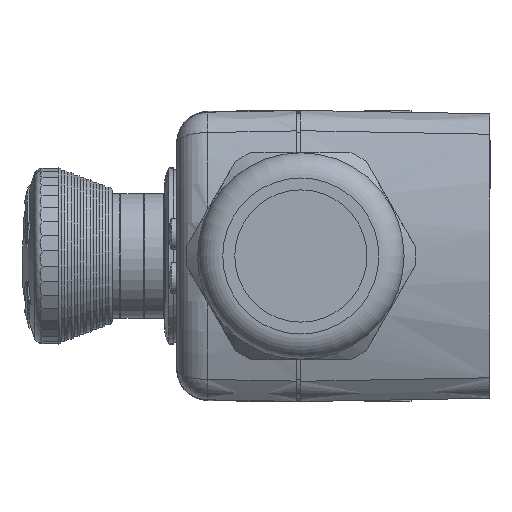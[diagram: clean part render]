
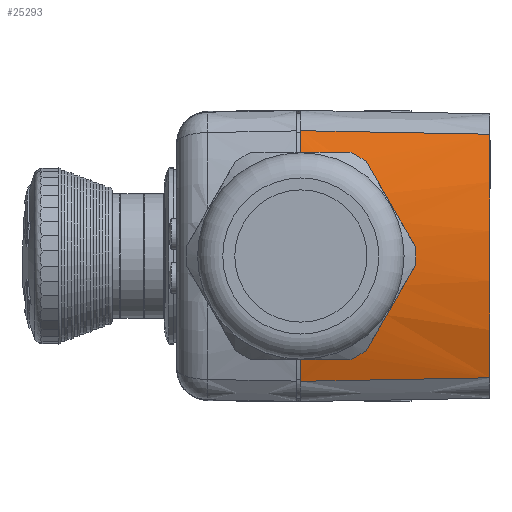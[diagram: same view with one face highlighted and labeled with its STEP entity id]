
A CAD part, left-side view. The second image highlights one B-rep face of the part: STEP entity #25293.
In plain terms, the highlighted conical face has half-angle 1 degrees and reference radius 55.977 mm.
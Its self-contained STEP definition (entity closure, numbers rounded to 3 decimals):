
#5990=CARTESIAN_POINT('',(-218.263,30.0,16.5));
#5991=VERTEX_POINT('',#5990);
#5998=CARTESIAN_POINT('',(-217.092,30.,19.903));
#5999=VERTEX_POINT('',#5998);
#6000=CARTESIAN_POINT('',(-164.773,30.,0.0));
#6001=DIRECTION('',(0.,-1.0,0.));
#6002=DIRECTION('',(0.911,0.,-0.413));
#6003=AXIS2_PLACEMENT_3D('',#6000,#6001,#6002);
#6004=CIRCLE('',#6003,55.977);
#6005=EDGE_CURVE('',#5999,#5991,#6004,.T.);
#11243=CARTESIAN_POINT('',(-217.092,30.,-19.903));
#11244=VERTEX_POINT('',#11243);
#11264=CARTESIAN_POINT('',(-218.263,30.0,-16.5));
#11265=VERTEX_POINT('',#11264);
#11266=CARTESIAN_POINT('',(-164.773,30.,0.0));
#11267=DIRECTION('',(0.,-1.0,0.));
#11268=DIRECTION('',(0.911,0.,-0.413));
#11269=AXIS2_PLACEMENT_3D('',#11266,#11267,#11268);
#11270=CIRCLE('',#11269,55.977);
#11271=EDGE_CURVE('',#11265,#11244,#11270,.T.);
#12275=CARTESIAN_POINT('',(-216.742,0.,-19.346));
#12276=VERTEX_POINT('',#12275);
#12489=CARTESIAN_POINT('',(-216.742,0.,19.346));
#12490=VERTEX_POINT('',#12489);
#12510=CARTESIAN_POINT('',(-164.773,0.0,0.0));
#12511=DIRECTION('',(0.,1.0,0.));
#12512=DIRECTION('',(0.911,0.,-0.413));
#12513=AXIS2_PLACEMENT_3D('',#12510,#12511,#12512);
#12514=CIRCLE('',#12513,55.453);
#12515=EDGE_CURVE('',#12276,#12490,#12514,.T.);
#23428=CARTESIAN_POINT('',(-217.092,30.,19.903));
#23429=CARTESIAN_POINT('',(-216.976,20.,19.718));
#23430=CARTESIAN_POINT('',(-216.859,10.,19.532));
#23431=CARTESIAN_POINT('',(-216.742,0.,19.346));
#23432=B_SPLINE_CURVE_WITH_KNOTS('',3,(#23428,#23429,#23430,#23431),.UNSPECIFIED.,.F.,.U.,(4,4),(-3.501,-0.5),.UNSPECIFIED.);
#23433=EDGE_CURVE('',#5999,#12490,#23432,.T.);
#23631=CARTESIAN_POINT('',(-216.742,0.,-19.346));
#23632=CARTESIAN_POINT('',(-216.859,10.,-19.532));
#23633=CARTESIAN_POINT('',(-216.976,20.,-19.718));
#23634=CARTESIAN_POINT('',(-217.092,30.,-19.903));
#23635=B_SPLINE_CURVE_WITH_KNOTS('',3,(#23631,#23632,#23633,#23634),.UNSPECIFIED.,.F.,.U.,(4,4),(-3.502,-0.501),.UNSPECIFIED.);
#23636=EDGE_CURVE('',#12276,#11244,#23635,.T.);
#25239=CARTESIAN_POINT('',(-164.773,30.,0.0));
#25240=DIRECTION('',(0.0,1.0,0.0));
#25241=DIRECTION('',(0.911,0.,-0.413));
#25242=AXIS2_PLACEMENT_3D('',#25239,#25240,#25241);
#25243=CONICAL_SURFACE('',#25242,55.977,1.0);
#25244=CARTESIAN_POINT('',(-218.263,30.0,16.5));
#25245=CARTESIAN_POINT('',(-218.262,29.972,16.5));
#25246=CARTESIAN_POINT('',(-218.262,29.943,16.5));
#25247=CARTESIAN_POINT('',(-218.261,29.915,16.5));
#25248=CARTESIAN_POINT('',(-218.244,28.878,16.494));
#25249=CARTESIAN_POINT('',(-218.257,27.807,16.39));
#25250=CARTESIAN_POINT('',(-218.348,25.682,15.962));
#25251=CARTESIAN_POINT('',(-218.425,24.626,15.639));
#25252=CARTESIAN_POINT('',(-218.628,22.606,14.791));
#25253=CARTESIAN_POINT('',(-218.754,21.639,14.266));
#25254=CARTESIAN_POINT('',(-219.028,19.853,13.055));
#25255=CARTESIAN_POINT('',(-219.175,19.033,12.371));
#25256=CARTESIAN_POINT('',(-219.46,17.582,10.914));
#25257=CARTESIAN_POINT('',(-219.608,16.9,10.09));
#25258=CARTESIAN_POINT('',(-219.887,15.697,8.296));
#25259=CARTESIAN_POINT('',(-220.017,15.175,7.326));
#25260=CARTESIAN_POINT('',(-220.233,14.336,5.3));
#25261=CARTESIAN_POINT('',(-220.32,14.018,4.242));
#25262=CARTESIAN_POINT('',(-220.434,13.6,2.111));
#25263=CARTESIAN_POINT('',(-220.462,13.5,1.039));
#25264=CARTESIAN_POINT('',(-220.462,13.5,-1.039));
#25265=CARTESIAN_POINT('',(-220.434,13.6,-2.111));
#25266=CARTESIAN_POINT('',(-220.32,14.018,-4.242));
#25267=CARTESIAN_POINT('',(-220.233,14.336,-5.3));
#25268=CARTESIAN_POINT('',(-220.017,15.175,-7.326));
#25269=CARTESIAN_POINT('',(-219.887,15.697,-8.296));
#25270=CARTESIAN_POINT('',(-219.608,16.9,-10.09));
#25271=CARTESIAN_POINT('',(-219.46,17.582,-10.914));
#25272=CARTESIAN_POINT('',(-219.175,19.033,-12.371));
#25273=CARTESIAN_POINT('',(-219.028,19.853,-13.055));
#25274=CARTESIAN_POINT('',(-218.754,21.639,-14.266));
#25275=CARTESIAN_POINT('',(-218.628,22.606,-14.791));
#25276=CARTESIAN_POINT('',(-218.425,24.626,-15.639));
#25277=CARTESIAN_POINT('',(-218.348,25.682,-15.962));
#25278=CARTESIAN_POINT('',(-218.257,27.807,-16.39));
#25279=CARTESIAN_POINT('',(-218.244,28.878,-16.494));
#25280=CARTESIAN_POINT('',(-218.262,29.943,-16.5));
#25281=CARTESIAN_POINT('',(-218.262,29.972,-16.5));
#25282=CARTESIAN_POINT('',(-218.263,30.0,-16.5));
#25283=B_SPLINE_CURVE_WITH_KNOTS('',3,(#25244,#25245,#25246,#25247,#25248,#25249,#25250,#25251,#25252,#25253,#25254,#25255,#25256,#25257,#25258,#25259,#25260,#25261,#25262,#25263,#25264,#25265,#25266,#25267,#25268,#25269,#25270,#25271,#25272,#25273,#25274,#25275,#25276,#25277,#25278,#25279,#25280,#25281,#25282),.UNSPECIFIED.,.F.,.U.,(4,3,2,2,2,2,2,2,2,2,2,2,2,2,2,2,2,2,4),(-0.008,0.0,0.311,0.622,0.934,1.245,1.556,1.868,2.18,2.491,2.803,3.114,3.426,3.738,4.049,4.36,4.671,4.982,4.991),.UNSPECIFIED.);
#25284=EDGE_CURVE('',#5991,#11265,#25283,.T.);
#25285=ORIENTED_EDGE('',*,*,#25284,.T.);
#25286=ORIENTED_EDGE('',*,*,#11271,.T.);
#25287=ORIENTED_EDGE('',*,*,#23636,.F.);
#25288=ORIENTED_EDGE('',*,*,#12515,.T.);
#25289=ORIENTED_EDGE('',*,*,#23433,.F.);
#25290=ORIENTED_EDGE('',*,*,#6005,.T.);
#25291=EDGE_LOOP('',(#25285,#25286,#25287,#25288,#25289,#25290));
#25292=FACE_OUTER_BOUND('',#25291,.T.);
#25293=ADVANCED_FACE('',(#25292),#25243,.T.);
